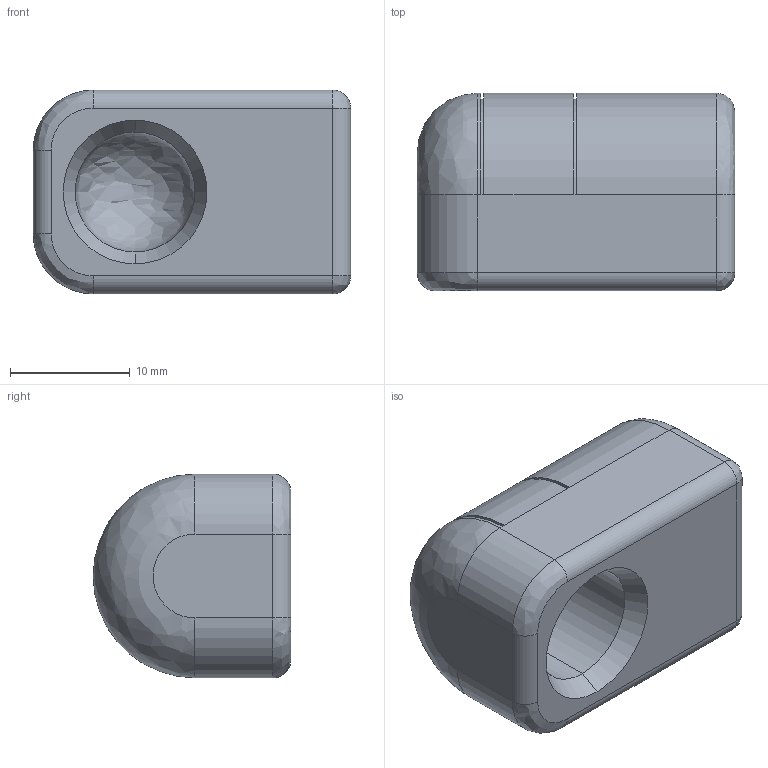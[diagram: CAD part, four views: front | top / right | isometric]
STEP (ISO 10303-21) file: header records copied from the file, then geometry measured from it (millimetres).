
FILE_DESCRIPTION (( 'STEP AP214' ), '1' );
FILE_NAME ('13.C10M8KNST01.STEP', '2017-12-21T08:52:16', ( '' ), ( '' ), 'SwSTEP 2.0', 'SolidWorks 2017', '' );
FILE_SCHEMA (( 'AUTOMOTIVE_DESIGN' ));
Length unit declared in the file: millimetre
Products named in the file (1): 13.C10M8KNST01
Bounding box: 26.5 x 16.5 x 17 mm (x, y, z)
Volume: 4991.9 mm3; surface area: 2489.3 mm2
Topology: 1 solids, 1 shells, 43 faces, 97 edges, 52 vertices
Faces by surface type: cylinder 17, plane 13, bspline 7, cone 6
Entity records: 1372 total; most frequent: CARTESIAN_POINT 372, DIRECTION 202, ORIENTED_EDGE 186, EDGE_CURVE 93, AXIS2_PLACEMENT_3D 77, VERTEX_POINT 52, VECTOR 48, LINE 48
